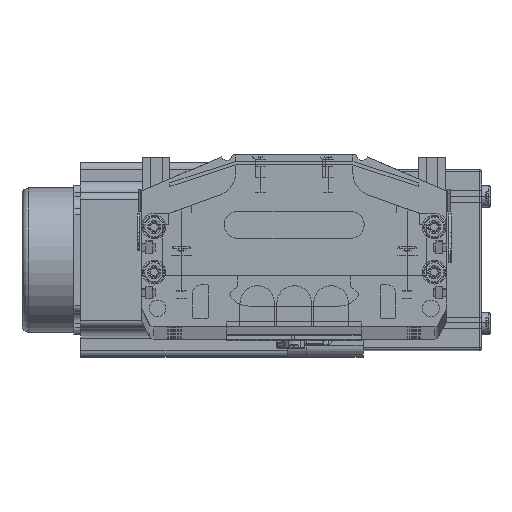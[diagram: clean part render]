
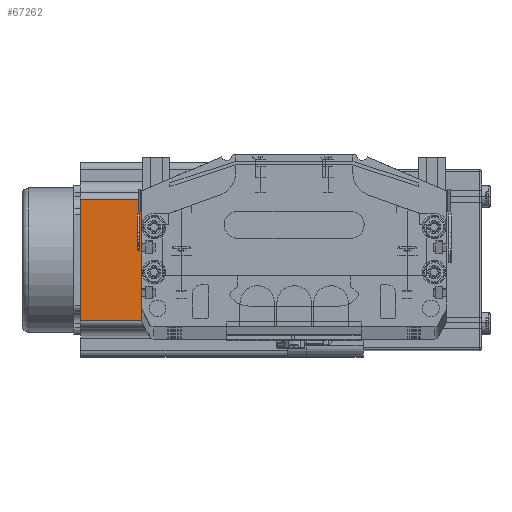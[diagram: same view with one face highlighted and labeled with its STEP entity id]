
A CAD part, top view. The second image highlights one B-rep face of the part: STEP entity #67262.
In plain terms, the highlighted planar face has unit normal (0, 0, 1) as drawn and (-1, 0, 0) by its records, which use the part's own axes.
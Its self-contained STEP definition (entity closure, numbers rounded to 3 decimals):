
#3590 = VECTOR ( 'NONE', #3591, 1000. ) ;
#3591 = DIRECTION ( 'NONE',  ( 0., -1., 0. ) ) ;
#3592 = CARTESIAN_POINT ( 'NONE',  ( 0., 0., 0. ) ) ;
#3593 = LINE ( 'NONE', #3592, #3590 ) ;
#3613 = CARTESIAN_POINT ( 'NONE',  ( 0., 69.74, 0. ) ) ;
#3702 = DIRECTION ( 'NONE',  ( 0., 0., -1. ) ) ;
#3703 = DIRECTION ( 'NONE',  ( 1., 0., 0. ) ) ;
#3704 = CARTESIAN_POINT ( 'NONE',  ( 0., 0., 91.5 ) ) ;
#3705 = AXIS2_PLACEMENT_3D ( 'NONE', #3704, #3703, #3702 ) ;
#3710 = CARTESIAN_POINT ( 'NONE',  ( 0., 16.16, 0. ) ) ;
#3713 = FACE_OUTER_BOUND ( 'NONE', #67245, .T. ) ;
#3812 = PLANE ( 'NONE',  #3705 ) ;
#3883 = DIRECTION ( 'NONE',  ( 0., 0., -1. ) ) ;
#3884 = VECTOR ( 'NONE', #3883, 1000. ) ;
#3885 = CARTESIAN_POINT ( 'NONE',  ( 0., 69.74, 91.5 ) ) ;
#3901 = DIRECTION ( 'NONE',  ( 0., -1., 0. ) ) ;
#3902 = VECTOR ( 'NONE', #3901, 1000. ) ;
#3903 = CARTESIAN_POINT ( 'NONE',  ( 0., 0., 91.5 ) ) ;
#3904 = LINE ( 'NONE', #3903, #3902 ) ;
#3921 = LINE ( 'NONE', #3988, #3987 ) ;
#3986 = DIRECTION ( 'NONE',  ( 0., 0., 1. ) ) ;
#3987 = VECTOR ( 'NONE', #3986, 1000. ) ;
#3988 = CARTESIAN_POINT ( 'NONE',  ( 0., 16.16, 91.5 ) ) ;
#4017 = LINE ( 'NONE', #3885, #3884 ) ;
#4102 = CARTESIAN_POINT ( 'NONE',  ( 0., 16.16, 91.5 ) ) ;
#4281 = CARTESIAN_POINT ( 'NONE',  ( 0., 69.74, 91.5 ) ) ;
#67232 = EDGE_CURVE ( 'NONE', #67243, #67263, #3593, .T. ) ;
#67243 = VERTEX_POINT ( 'NONE', #3613 ) ;
#67245 = EDGE_LOOP ( 'NONE', ( #67256, #67358, #67428, #67489 ) ) ;
#67256 = ORIENTED_EDGE ( 'NONE', *, *, #67232, .T. ) ;
#67262 = ADVANCED_FACE ( 'NONE', ( #3713 ), #3812, .F. ) ;
#67263 = VERTEX_POINT ( 'NONE', #3710 ) ;
#67339 = EDGE_CURVE ( 'NONE', #67592, #67243, #4017, .T. ) ;
#67341 = EDGE_CURVE ( 'NONE', #67263, #67423, #3921, .T. ) ;
#67342 = EDGE_CURVE ( 'NONE', #67592, #67423, #3904, .T. ) ;
#67358 = ORIENTED_EDGE ( 'NONE', *, *, #67341, .T. ) ;
#67423 = VERTEX_POINT ( 'NONE', #4102 ) ;
#67428 = ORIENTED_EDGE ( 'NONE', *, *, #67342, .F. ) ;
#67489 = ORIENTED_EDGE ( 'NONE', *, *, #67339, .T. ) ;
#67592 = VERTEX_POINT ( 'NONE', #4281 ) ;
